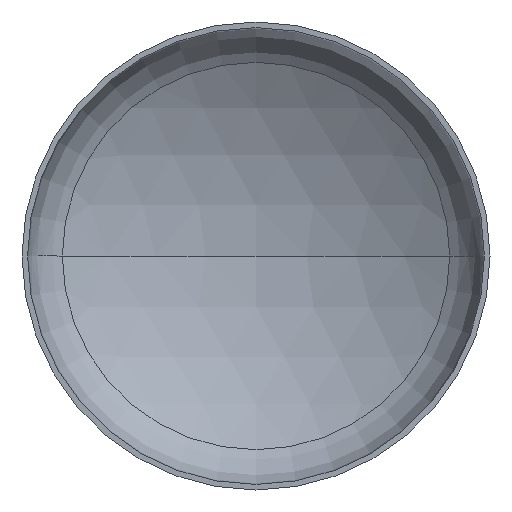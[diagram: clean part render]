
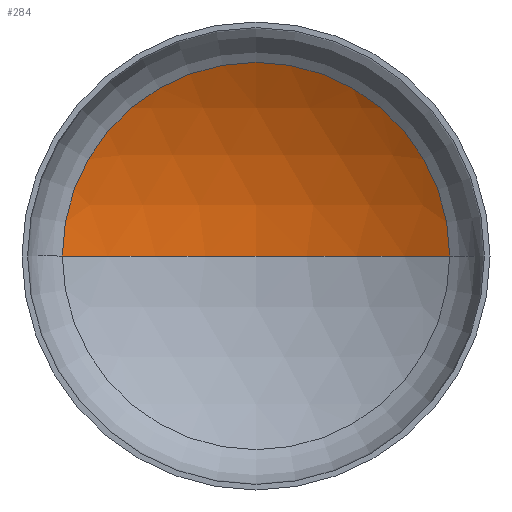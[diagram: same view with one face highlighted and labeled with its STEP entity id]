
A CAD part, front view. The second image highlights one B-rep face of the part: STEP entity #284.
In plain terms, the highlighted spherical face has radius 3200 mm.
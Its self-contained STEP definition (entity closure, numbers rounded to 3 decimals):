
#1 = DIRECTION ( 'NONE',  ( 1., 0., 0. ) ) ;
#5 = AXIS2_PLACEMENT_3D ( 'NONE', #397, #376, #174 ) ;
#11 = DIRECTION ( 'NONE',  ( -1., 0., 0. ) ) ;
#14 = DIRECTION ( 'NONE',  ( 0., 0., -1. ) ) ;
#19 = AXIS2_PLACEMENT_3D ( 'NONE', #106, #281, #303 ) ;
#21 = CARTESIAN_POINT ( 'NONE',  ( 0., -2062.387, 0. ) ) ;
#22 = ORIENTED_EDGE ( 'NONE', *, *, #86, .T. ) ;
#23 = EDGE_LOOP ( 'NONE', ( #61, #22, #53 ) ) ;
#24 = VERTEX_POINT ( 'NONE', #244 ) ;
#25 = AXIS2_PLACEMENT_3D ( 'NONE', #21, #14, #11 ) ;
#26 = AXIS2_PLACEMENT_3D ( 'NONE', #381, #238, #1 ) ;
#38 = VERTEX_POINT ( 'NONE', #291 ) ;
#45 = VERTEX_POINT ( 'NONE', #234 ) ;
#53 = ORIENTED_EDGE ( 'NONE', *, *, #83, .T. ) ;
#61 = ORIENTED_EDGE ( 'NONE', *, *, #89, .F. ) ;
#65 = FACE_OUTER_BOUND ( 'NONE', #23, .T. ) ;
#83 = EDGE_CURVE ( 'NONE', #24, #45, #127, .T. ) ;
#86 = EDGE_CURVE ( 'NONE', #38, #24, #326, .T. ) ;
#89 = EDGE_CURVE ( 'NONE', #38, #45, #270, .T. ) ;
#106 = CARTESIAN_POINT ( 'NONE',  ( 0., -2062.387, 0. ) ) ;
#127 = CIRCLE ( 'NONE', #26, 1655.087 ) ;
#174 = DIRECTION ( 'NONE',  ( -1., 0., 0. ) ) ;
#234 = CARTESIAN_POINT ( 'NONE',  ( -1655.087, 676.351, 0. ) ) ;
#238 = DIRECTION ( 'NONE',  ( 0., -1., 0. ) ) ;
#244 = CARTESIAN_POINT ( 'NONE',  ( 1655.087, 676.351, 0. ) ) ;
#270 = CIRCLE ( 'NONE', #19, 3200. ) ;
#281 = DIRECTION ( 'NONE',  ( 0., 0., 1. ) ) ;
#284 = ADVANCED_FACE ( 'NONE', ( #65 ), #304, .F. ) ;
#291 = CARTESIAN_POINT ( 'NONE',  ( 0., 1137.613, 0. ) ) ;
#303 = DIRECTION ( 'NONE',  ( 1., 0., 0. ) ) ;
#304 = SPHERICAL_SURFACE ( 'NONE', #5, 3200. ) ;
#326 = CIRCLE ( 'NONE', #25, 3200. ) ;
#376 = DIRECTION ( 'NONE',  ( 0., 0., -1. ) ) ;
#381 = CARTESIAN_POINT ( 'NONE',  ( 0., 676.351, 0. ) ) ;
#397 = CARTESIAN_POINT ( 'NONE',  ( 0., -2062.387, 0. ) ) ;
